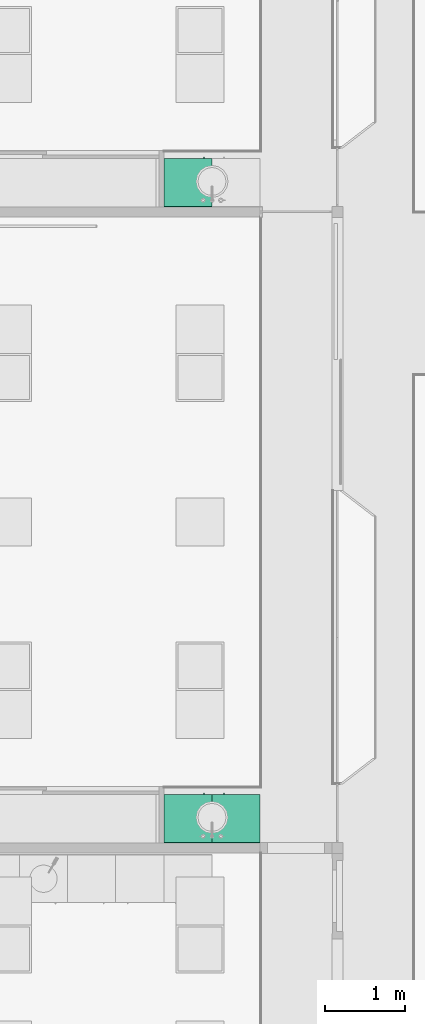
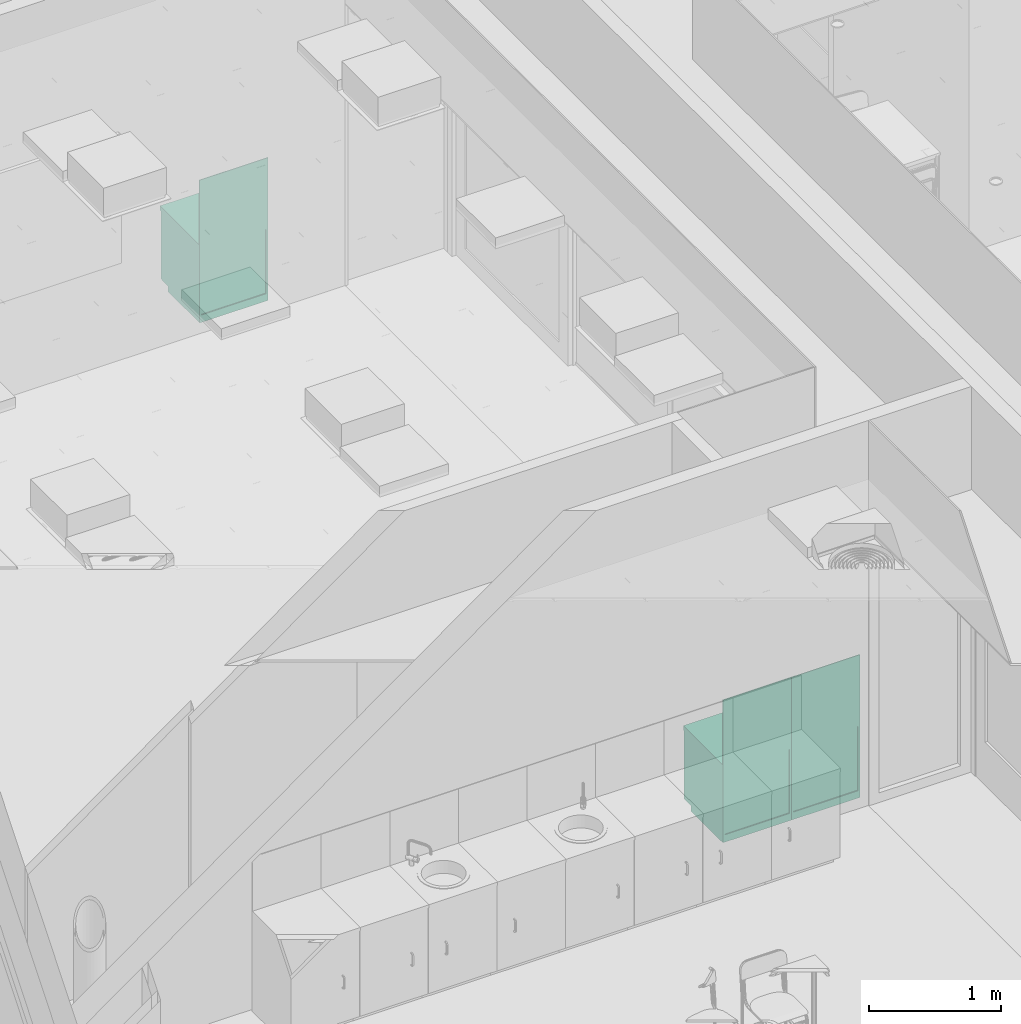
# One storey, part 304 of 347: 3 distribution elements.
"""IFC2X3 building model written with IfcOpenShell, lengths in millimetres."""

import ifcopenshell
import ifcopenshell.guid

model = None  # the IFC model being written
_history = None  # IfcOwnerHistory: only IFC2X3 demands one
_inside = {}  # id of a spatial element -> (the spatial element, [elements in it])
_under = {}  # id of a project, library or spatial element -> (it, [spatial elements below it])
_declared = {}  # id of a project -> (the project, [libraries it declares])
_typed = {}  # id of a type object -> (the type object, [elements of that type])
_made_of = {}  # id of a material, layer set ... -> (it, [elements and type objects made of it])


def new_model(schema):
    """Start an empty IFC model of exactly this schema.

    Asked for "IFC4X3", IfcOpenShell would pick the latest addendum, in which some entities
    have other attributes; the version numbers below select the first issue.
    IFC2X3 requires an IfcOwnerHistory on every rooted entity: one is made here for all.
    """
    global model, _history
    if schema == "IFC4X3":
        model = ifcopenshell.file(schema_version=(4, 3, 0, 0))
    else:
        model = ifcopenshell.file(schema=schema)
    _inside.clear()
    _under.clear()
    _declared.clear()
    _typed.clear()
    _made_of.clear()
    _history = None
    if model.schema == "IFC2X3":
        org = make("IfcOrganization", Name="unknown")
        user = make(
            "IfcPersonAndOrganization",
            ThePerson=make("IfcPerson", FamilyName="unknown"),
            TheOrganization=org,
        )
        app = make(
            "IfcApplication",
            ApplicationDeveloper=org,
            Version="unknown",
            ApplicationFullName="unknown",
            ApplicationIdentifier="unknown",
        )
        _history = make(
            "IfcOwnerHistory",
            OwningUser=user,
            OwningApplication=app,
            ChangeAction="ADDED",
            CreationDate=0,
        )
    return model


def make(cls, **values):
    """One entity of the class cls with the attributes given. An attribute that is None is left unset."""
    return model.create_entity(
        cls, **{name: value for name, value in values.items() if value is not None}
    )


def entity(cls, *values):
    """Any entity or typed value of the class cls, its attributes in the order of the schema. None: left unset."""
    e = model.create_entity(cls)
    for i, value in enumerate(values):
        if value is not None:
            e[i] = value
    return e


def rooted(cls, **values):
    """An entity with a GlobalId (a new one), such as an element, a storey or a relation."""
    return make(cls, GlobalId=ifcopenshell.guid.new(), OwnerHistory=_history, **values)


def si_unit(unit_type, name, prefix=None):
    """IfcSIUnit, for example si_unit("LENGTHUNIT", "METRE", prefix="MILLI")."""
    return make("IfcSIUnit", UnitType=unit_type, Prefix=prefix, Name=name)


def converted_unit(unit_type, name, factor, base, dimensions=None, offset=None):
    """IfcConversionBasedUnit, such as the inch: factor (a typed value) times the base unit."""
    return make(
        "IfcConversionBasedUnit"
        if offset is None
        else "IfcConversionBasedUnitWithOffset",
        ConversionOffset=offset,
        Dimensions=None
        if dimensions is None
        else entity("IfcDimensionalExponents", *dimensions),
        UnitType=unit_type,
        Name=name,
        ConversionFactor=make(
            "IfcMeasureWithUnit", ValueComponent=factor, UnitComponent=base
        ),
    )


def derived_unit(unit_type, elements):
    """IfcDerivedUnit: a product of units, each with its exponent."""
    return make(
        "IfcDerivedUnit",
        Elements=[
            make("IfcDerivedUnitElement", Unit=unit, Exponent=power)
            for unit, power in elements
        ],
        UnitType=unit_type,
    )


def money_unit(currency):
    """IfcMonetaryUnit."""
    return make("IfcMonetaryUnit", Currency=currency)


def assignment(units):
    """IfcUnitAssignment: the units of a project."""
    return None if units is None else make("IfcUnitAssignment", Units=units)


def point(xyz):
    """IfcCartesianPoint."""
    return None if xyz is None else make("IfcCartesianPoint", Coordinates=xyz)


def direction(xyz):
    """IfcDirection."""
    return None if xyz is None else make("IfcDirection", DirectionRatios=xyz)


def frame(location, z_axis=None, x_axis=None):
    """IfcAxis2Placement3D, a coordinate frame: its origin and axes. An axis left out is left unset."""
    return make(
        "IfcAxis2Placement3D",
        Location=point(location),
        Axis=direction(z_axis),
        RefDirection=direction(x_axis),
    )


def origin_with_axes():
    """The frame at (0, 0, 0) with the z axis (0, 0, 1) and the x axis (1, 0, 0) written out."""
    return frame((0.0, 0.0, 0.0), z_axis=(0.0, 0.0, 1.0), x_axis=(1.0, 0.0, 0.0))


def place(relative_to, where):
    """IfcLocalPlacement: puts the frame where relative to a parent placement (None: the world)."""
    return make(
        "IfcLocalPlacement", PlacementRelTo=relative_to, RelativePlacement=where
    )


def context(
    kind, dimensions, precision=None, world=None, true_north=None, identifier=None
):
    """IfcGeometricRepresentationContext, for example the 3D "Model" context."""
    return make(
        "IfcGeometricRepresentationContext",
        ContextIdentifier=identifier,
        ContextType=kind,
        CoordinateSpaceDimension=dimensions,
        Precision=precision,
        WorldCoordinateSystem=world,
        TrueNorth=true_north,
    )


def subcontext(parent, identifier, kind, view, scale=None):
    """IfcGeometricRepresentationSubContext, for example "Body" below "Model"."""
    return make(
        "IfcGeometricRepresentationSubContext",
        ContextIdentifier=identifier,
        ContextType=kind,
        ParentContext=parent,
        TargetScale=scale,
        TargetView=view,
    )


def project(units=None, contexts=None):
    """IfcProject with its units and contexts."""
    return rooted(
        "IfcProject",
        Name="project",
        RepresentationContexts=contexts,
        UnitsInContext=assignment(units),
    )


def spatial(cls, under=None, at=None, **own):
    """A site, building, storey or space (cls), placed at a placement, below another one or the project."""
    s = rooted(cls, ObjectPlacement=at, **own)
    if under is not None:
        _under.setdefault(under.id(), (under, []))[1].append(s)
    return s


def faces_of(points, faces, orient=None, outer=None):
    """IfcFace entities. A face is a list of loops; a loop is a list of indices into points, from 0.

    orient and outer hold one flag for each loop. By default every Orientation is true, the
    first loop of a face is its IfcFaceOuterBound and the others are IfcFaceBound.
    """
    made = []
    for i, loops in enumerate(faces):
        bounds = []
        for j, loop in enumerate(loops):
            is_outer = j == 0 if outer is None else outer[i][j]
            bounds.append(
                make(
                    "IfcFaceOuterBound" if is_outer else "IfcFaceBound",
                    Bound=make("IfcPolyLoop", Polygon=[points[k] for k in loop]),
                    Orientation=True if orient is None else orient[i][j],
                )
            )
        made.append(make("IfcFace", Bounds=bounds))
    return made


def faceted_brep(points, faces, orient=None, outer=None, voids=None):
    """IfcFacetedBrep: a solid bounded by flat faces; with voids (closed shells), ...WithVoids."""
    shared = [point(p) for p in points]
    hull = make("IfcClosedShell", CfsFaces=faces_of(shared, faces, orient, outer))
    if voids is None:
        return make("IfcFacetedBrep", Outer=hull)
    return make(
        "IfcFacetedBrepWithVoids",
        Outer=hull,
        Voids=[
            make(cls, CfsFaces=faces_of(shared, fs, o, b)) for cls, fs, o, b in voids
        ],
    )


def shape(context_of_items, identifier, shape_type, items):
    """IfcShapeRepresentation: the items that make up one representation, for example the "Body"."""
    return make(
        "IfcShapeRepresentation",
        ContextOfItems=context_of_items,
        RepresentationIdentifier=identifier,
        RepresentationType=shape_type,
        Items=items,
    )


def made_of(thing, what):
    """Note that an element or type object is made of a material, layer set ...; save() writes the relation."""
    if what is not None:
        _made_of.setdefault(what.id(), (what, []))[1].append(thing)
    return thing


def type_object(cls, material=None, **own):
    """A type object (cls), such as IfcWallType, which elements share."""
    return made_of(rooted(cls, **own), material)


def element(
    cls,
    number,
    at=None,
    inside=None,
    cuts=None,
    type_object=None,
    material=None,
    context=None,
    identifier="Body",
    shape_type=None,
    held_by="IfcProductDefinitionShape",
    body=None,
    shapes=None,
    **own,
):
    """One element of the class cls, such as IfcWall. Its Tag is "e" and its number.

    at: its placement. inside: the storey or other place that contains it. cuts: it is an
    opening in that element (IfcRelVoidsElement). A single representation is given by context,
    identifier, shape_type and body (its items); several are given by shapes. held_by: the class
    of the entity that holds the representations. save() writes the other relations.
    """
    e = rooted(cls, Tag="e%d" % number, ObjectPlacement=at, **own)
    if body is not None:
        shapes = [shape(context, identifier, shape_type, body)]
    if shapes is not None:
        e.Representation = make(held_by, Representations=shapes)
    if inside is not None:
        _inside.setdefault(inside.id(), (inside, []))[1].append(e)
    if cuts is not None:
        rooted(
            "IfcRelVoidsElement", RelatingBuildingElement=cuts, RelatedOpeningElement=e
        )
    if type_object is not None:
        _typed.setdefault(type_object.id(), (type_object, []))[1].append(e)
    return made_of(e, material)


def aggregate(whole, parts):
    """IfcRelAggregates: a whole, such as a stair, and the parts it consists of."""
    return rooted("IfcRelAggregates", RelatingObject=whole, RelatedObjects=parts)


def save(model, path):
    """Write the relations noted so far, then the file.

    IfcRelAggregates (storeys below a building ...), IfcRelContainedInSpatialStructure (elements
    in a storey), IfcRelDefinesByType, IfcRelAssociatesMaterial and IfcRelDeclares: one each for
    every whole, place, type object, material and project.
    """
    for whole, parts in _under.values():
        aggregate(whole, parts)
    for where, things in _inside.values():
        rooted(
            "IfcRelContainedInSpatialStructure",
            RelatedElements=things,
            RelatingStructure=where,
        )
    for kind, things in _typed.values():
        rooted("IfcRelDefinesByType", RelatedObjects=things, RelatingType=kind)
    for what, things in _made_of.values():
        rooted("IfcRelAssociatesMaterial", RelatedObjects=things, RelatingMaterial=what)
    for by, libraries in _declared.values():
        rooted("IfcRelDeclares", RelatingContext=by, RelatedDefinitions=libraries)
    model.write(path)


model = new_model("IFC2X3")

# Units and contexts
model_context = context("Model", 3, precision=0.01, world=origin_with_axes(), true_north=direction((0.0, 1.0)))
plan_context = context("Plan", 3, precision=0.01, world=origin_with_axes(), true_north=direction((0.0, 1.0)))
body_context = subcontext(model_context, "Body", "Model", "MODEL_VIEW")
ifc_project = project(units=[si_unit("LENGTHUNIT", "METRE", prefix="MILLI"), si_unit("AREAUNIT", "SQUARE_METRE"), si_unit("VOLUMEUNIT", "CUBIC_METRE"), converted_unit("PLANEANGLEUNIT", "DEGREE", entity("IfcPlaneAngleMeasure", 0.0174532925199), si_unit("PLANEANGLEUNIT", "RADIAN"), dimensions=[0, 0, 0, 0, 0, 0, 0]), money_unit("EUR"), converted_unit("TIMEUNIT", "Year", entity("IfcTimeMeasure", 31556926.0), si_unit("TIMEUNIT", "SECOND"), dimensions=[0, 0, 1, 0, 0, 0, 0]), si_unit("MASSUNIT", "GRAM", prefix="KILO"), si_unit("THERMODYNAMICTEMPERATUREUNIT", "DEGREE_CELSIUS"), si_unit("LUMINOUSINTENSITYUNIT", "LUMEN"), si_unit("ENERGYUNIT", "JOULE", prefix="MEGA"), derived_unit("THERMALCONDUCTANCEUNIT", [(si_unit("POWERUNIT", "WATT"), 1), (si_unit("LENGTHUNIT", "METRE"), -1), (si_unit("THERMODYNAMICTEMPERATUREUNIT", "KELVIN"), -1)]), derived_unit("SPECIFICHEATCAPACITYUNIT", [(si_unit("ENERGYUNIT", "JOULE"), 1), (si_unit("MASSUNIT", "GRAM", prefix="KILO"), -1), (si_unit("THERMODYNAMICTEMPERATUREUNIT", "KELVIN"), -1)]), derived_unit("MASSDENSITYUNIT", [(si_unit("MASSUNIT", "GRAM", prefix="KILO"), 1), (si_unit("VOLUMEUNIT", "CUBIC_METRE"), -1)])], contexts=[model_context, plan_context])

# Site, building, storey
site_placement = place(None, origin_with_axes())
site = spatial("IfcSite", under=ifc_project, at=site_placement, Name="Site", CompositionType="ELEMENT")
building_placement = place(site_placement, origin_with_axes())
building = spatial("IfcBuilding", under=site, at=building_placement, Name="Naam gebouw", CompositionType="ELEMENT")
storey_placement = place(building_placement, origin_with_axes())
storey = spatial("IfcBuildingStorey", under=building, at=storey_placement, Name="begane grond", CompositionType="ELEMENT", Elevation=0.0)

# Distribution elements
distribution_element_type = type_object("IfcDistributionElementType", Name="Onderkast recht 25")
distribution_element_1_placement = place(storey_placement, frame((30575.0, 20112.5, 0.0), z_axis=(0.0, 0.0, 1.0), x_axis=(-1.0, 0.0, 0.0)))
element("IfcDistributionElement", 1, at=distribution_element_1_placement, inside=storey, type_object=distribution_element_type, Name="65 Beveiliging_82 pantryblok", context=body_context, shape_type="Brep", body=[
    faceted_brep([(-127.279220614, -444.012913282, 720.0), (-166.298315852, -385.616710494, 720.0), (-180.0, -316.733692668, 720.0), (-166.298315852, -247.850674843, 720.0), (-127.279220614, -189.454472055, 720.0), (-68.8830178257, -150.435376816, 720.0), (0.0, -136.733692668, 720.0), (0.0, 0.0, 720.0), (-600.0, 0.0, 720.0), (-600.0, -600.0, 720.0), (0.0, -600.0, 720.0), (0.0, -496.733692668, 720.0), (-68.8830178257, -483.03200852, 720.0), (-127.279220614, -444.012913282, 680.0), (-166.298315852, -385.616710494, 680.0), (-180.0, -316.733692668, 680.0), (-166.298315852, -247.850674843, 680.0), (-127.279220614, -189.454472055, 680.0), (-68.8830178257, -150.435376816, 680.0), (0.0, -136.733692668, 680.0), (0.0, 0.0, 680.0), (-600.0, 0.0, 680.0), (-600.0, -600.0, 680.0), (0.0, -600.0, 680.0), (0.0, -496.733692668, 680.0), (-68.8830178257, -483.03200852, 680.0)], [[[0, 1, 2, 3, 4, 5, 6, 7, 8, 9, 10, 11, 12]], [[1, 0, 13, 14]], [[2, 1, 14, 15]], [[3, 2, 15, 16]], [[4, 3, 16, 17]], [[5, 4, 17, 18]], [[6, 5, 18, 19]], [[6, 19, 20, 7]], [[20, 21, 8, 7]], [[21, 22, 9, 8]], [[22, 23, 10, 9]], [[24, 11, 10, 23]], [[12, 11, 24, 25]], [[0, 12, 25, 13]], [[25, 24, 23, 22, 21, 20, 19, 18, 17, 16, 15, 14, 13]]]),
    faceted_brep([(-18.0, -512.0, 662.0), (-18.0, -572.0, 662.0), (-582.0, -572.0, 662.0), (-582.0, -512.0, 662.0), (-18.0, -572.0, 680.0), (-18.0, -512.0, 680.0), (-582.0, -572.0, 680.0), (-582.0, -512.0, 680.0)], [[[0, 1, 2, 3]], [[4, 1, 0, 5]], [[1, 4, 6, 2]], [[3, 2, 6, 7]], [[5, 0, 3, 7]], [[4, 5, 7, 6]]]),
    faceted_brep([(-18.0, -9.0, 68.0), (-582.0, -9.0, 68.0), (-582.0, -9.0, 662.0), (-18.0, -9.0, 662.0), (-582.0, -18.0, 68.0), (-18.0, -18.0, 68.0), (-582.0, -18.0, 662.0), (-18.0, -18.0, 662.0)], [[[0, 1, 2, 3]], [[4, 1, 0, 5]], [[1, 4, 6, 2]], [[3, 2, 6, 7]], [[5, 0, 3, 7]], [[4, 5, 7, 6]]]),
    faceted_brep([(-582.0, -60.0, 662.0), (-582.0, 0.0, 662.0), (-18.0, 0.0, 662.0), (-18.0, -60.0, 662.0), (-582.0, 0.0, 680.0), (-582.0, -60.0, 680.0), (-18.0, 0.0, 680.0), (-18.0, -60.0, 680.0)], [[[0, 1, 2, 3]], [[4, 1, 0, 5]], [[1, 4, 6, 2]], [[3, 2, 6, 7]], [[5, 0, 3, 7]], [[4, 5, 7, 6]]]),
    faceted_brep([(-14.8492424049, -201.884450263, 520.0), (-18.0, -205.990597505, 520.0), (-18.0, -205.990597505, 500.0), (-14.8492424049, -201.884450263, 500.0), (-18.0, -140.314115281, 520.0), (-10.5, -198.547159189, 520.0), (-5.43519994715, -196.449250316, 520.0), (0.0, -195.733692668, 520.0), (0.0, -136.733692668, 520.0), (-18.0, -493.153270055, 520.0), (-18.0, -227.476787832, 520.0), (-18.0, -227.476787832, 500.0), (-18.0, -140.314115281, 680.0), (-18.0, 0.0, 680.0), (-18.0, 0.0, 50.0), (-18.0, -572.0, 50.0), (-18.0, -572.0, 680.0), (-18.0, -493.153270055, 680.0), (-14.8492424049, -231.582935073, 500.0), (-10.5, -234.920226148, 500.0), (-5.43519994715, -237.01813502, 500.0), (0.0, -237.733692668, 500.0), (0.0, -195.733692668, 500.0), (-5.43519994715, -196.449250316, 500.0), (-10.5, -198.547159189, 500.0), (0.0, -496.733692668, 520.0), (0.0, -496.733692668, 680.0), (0.0, -572.0, 680.0), (0.0, -572.0, 50.0), (0.0, 0.0, 50.0), (0.0, 0.0, 680.0), (0.0, -136.733692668, 680.0), (0.0, -237.733692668, 520.0), (-5.43519994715, -237.01813502, 520.0), (-10.5, -234.920226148, 520.0), (-14.8492424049, -231.582935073, 520.0)], [[[0, 1, 2, 3]], [[4, 1, 0, 5, 6, 7, 8]], [[9, 10, 11, 2, 1, 4, 12, 13, 14, 15, 16, 17]], [[2, 11, 18, 19, 20, 21, 22, 23, 24, 3]], [[5, 0, 3, 24]], [[6, 5, 24, 23]], [[7, 6, 23, 22]], [[25, 26, 27, 28, 29, 30, 31, 8, 7, 22, 21, 32]], [[31, 12, 4, 8]], [[10, 9, 25, 32, 33, 34, 35]], [[10, 35, 18, 11]], [[12, 31, 30, 13]], [[29, 14, 13, 30]], [[14, 29, 28, 15]], [[15, 28, 27, 16]], [[26, 17, 16, 27]], [[9, 17, 26, 25]], [[35, 34, 19, 18]], [[34, 33, 20, 19]], [[33, 32, 21, 20]]]),
    faceted_brep([(-600.0, 0.0, 50.0), (-600.0, -572.0, 50.0), (-600.0, -572.0, 680.0), (-600.0, 0.0, 680.0), (-582.0, -572.0, 50.0), (-582.0, 0.0, 50.0), (-582.0, -572.0, 680.0), (-582.0, 0.0, 680.0)], [[[0, 1, 2, 3]], [[4, 1, 0, 5]], [[1, 4, 6, 2]], [[3, 2, 6, 7]], [[5, 0, 3, 7]], [[4, 5, 7, 6]]]),
    faceted_brep([(-600.0, 0.0, 720.0), (0.0, 0.0, 720.0), (0.0, -6.0, 720.0), (-600.0, -6.0, 720.0), (-600.0, 0.0, 1320.0), (0.0, 0.0, 1320.0), (0.0, -6.0, 1320.0), (-600.0, -6.0, 1320.0)], [[[0, 1, 2, 3]], [[4, 5, 1, 0]], [[1, 5, 6, 2]], [[3, 2, 6, 7]], [[0, 3, 7, 4]], [[7, 6, 5, 4]]]),
    faceted_brep([(-146.0, -590.0, 291.0), (-156.0, -590.0, 291.0), (-156.0, -590.0, 301.0), (-146.0, -590.0, 301.0), (-146.0, -600.0, 291.0), (-156.0, -600.0, 291.0), (-156.0, -603.472963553, 291.30384494), (-156.0, -606.840402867, 292.206147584), (-156.0, -610.0, 293.679491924), (-156.0, -612.855752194, 295.679111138), (-156.0, -615.320888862, 298.144247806), (-156.0, -617.320508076, 301.0), (-156.0, -618.793852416, 304.159597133), (-156.0, -619.69615506, 307.527036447), (-156.0, -620.0, 311.0), (-156.0, -620.0, 421.0), (-156.0, -619.69615506, 424.472963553), (-156.0, -618.793852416, 427.840402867), (-156.0, -617.320508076, 431.0), (-156.0, -615.320888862, 433.855752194), (-156.0, -612.855752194, 436.320888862), (-156.0, -610.0, 438.320508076), (-156.0, -606.840402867, 439.793852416), (-156.0, -603.472963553, 440.69615506), (-156.0, -600.0, 441.0), (-156.0, -590.0, 441.0), (-156.0, -590.0, 431.0), (-156.0, -600.0, 431.0), (-156.0, -601.736481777, 430.84807753), (-156.0, -603.420201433, 430.396926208), (-156.0, -605.0, 429.660254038), (-156.0, -606.427876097, 428.660444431), (-156.0, -607.660444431, 427.427876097), (-156.0, -608.660254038, 426.0), (-156.0, -609.396926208, 424.420201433), (-156.0, -609.84807753, 422.736481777), (-156.0, -610.0, 421.0), (-156.0, -610.0, 311.0), (-156.0, -609.84807753, 309.263518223), (-156.0, -609.396926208, 307.579798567), (-156.0, -608.660254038, 306.0), (-156.0, -607.660444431, 304.572123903), (-156.0, -606.427876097, 303.339555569), (-156.0, -605.0, 302.339745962), (-156.0, -603.420201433, 301.603073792), (-156.0, -601.736481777, 301.15192247), (-156.0, -600.0, 301.0), (-146.0, -600.0, 301.0), (-146.0, -601.736481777, 301.15192247), (-146.0, -603.420201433, 301.603073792), (-146.0, -605.0, 302.339745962), (-146.0, -606.427876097, 303.339555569), (-146.0, -607.660444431, 304.572123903), (-146.0, -608.660254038, 306.0), (-146.0, -609.396926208, 307.579798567), (-146.0, -609.84807753, 309.263518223), (-146.0, -610.0, 311.0), (-146.0, -610.0, 421.0), (-146.0, -609.84807753, 422.736481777), (-146.0, -609.396926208, 424.420201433), (-146.0, -608.660254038, 426.0), (-146.0, -607.660444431, 427.427876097), (-146.0, -606.427876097, 428.660444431), (-146.0, -605.0, 429.660254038), (-146.0, -603.420201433, 430.396926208), (-146.0, -601.736481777, 430.84807753), (-146.0, -600.0, 431.0), (-146.0, -590.0, 431.0), (-146.0, -590.0, 441.0), (-146.0, -600.0, 441.0), (-146.0, -603.472963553, 440.69615506), (-146.0, -606.840402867, 439.793852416), (-146.0, -610.0, 438.320508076), (-146.0, -612.855752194, 436.320888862), (-146.0, -615.320888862, 433.855752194), (-146.0, -617.320508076, 431.0), (-146.0, -618.793852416, 427.840402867), (-146.0, -619.69615506, 424.472963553), (-146.0, -620.0, 421.0), (-146.0, -620.0, 311.0), (-146.0, -619.69615506, 307.527036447), (-146.0, -618.793852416, 304.159597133), (-146.0, -617.320508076, 301.0), (-146.0, -615.320888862, 298.144247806), (-146.0, -612.855752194, 295.679111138), (-146.0, -610.0, 293.679491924), (-146.0, -606.840402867, 292.206147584), (-146.0, -603.472963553, 291.30384494)], [[[0, 1, 2, 3]], [[4, 5, 1, 0]], [[1, 5, 6, 7, 8, 9, 10, 11, 12, 13, 14, 15, 16, 17, 18, 19, 20, 21, 22, 23, 24, 25, 26, 27, 28, 29, 30, 31, 32, 33, 34, 35, 36, 37, 38, 39, 40, 41, 42, 43, 44, 45, 46, 2]], [[3, 2, 46, 47]], [[0, 3, 47, 48, 49, 50, 51, 52, 53, 54, 55, 56, 57, 58, 59, 60, 61, 62, 63, 64, 65, 66, 67, 68, 69, 70, 71, 72, 73, 74, 75, 76, 77, 78, 79, 80, 81, 82, 83, 84, 85, 86, 87, 4]], [[87, 6, 5, 4]], [[86, 7, 6, 87]], [[85, 8, 7, 86]], [[84, 9, 8, 85]], [[83, 10, 9, 84]], [[82, 11, 10, 83]], [[81, 12, 11, 82]], [[80, 13, 12, 81]], [[79, 14, 13, 80]], [[78, 15, 14, 79]], [[77, 16, 15, 78]], [[76, 17, 16, 77]], [[75, 18, 17, 76]], [[74, 19, 18, 75]], [[73, 20, 19, 74]], [[72, 21, 20, 73]], [[71, 22, 21, 72]], [[70, 23, 22, 71]], [[69, 24, 23, 70]], [[68, 25, 24, 69]], [[67, 26, 25, 68]], [[66, 27, 26, 67]], [[65, 28, 27, 66]], [[64, 29, 28, 65]], [[63, 30, 29, 64]], [[62, 31, 30, 63]], [[61, 32, 31, 62]], [[60, 33, 32, 61]], [[59, 34, 33, 60]], [[58, 35, 34, 59]], [[57, 36, 35, 58]], [[56, 37, 36, 57]], [[55, 38, 37, 56]], [[54, 39, 38, 55]], [[53, 40, 39, 54]], [[52, 41, 40, 53]], [[51, 42, 41, 52]], [[50, 43, 42, 51]], [[49, 44, 43, 50]], [[48, 45, 44, 49]], [[47, 46, 45, 48]]]),
    faceted_brep([(-1.0, -572.0, 51.0), (-1.0, -590.0, 51.0), (-599.0, -590.0, 51.0), (-599.0, -572.0, 51.0), (-1.0, -572.0, 679.0), (-1.0, -590.0, 679.0), (-599.0, -590.0, 679.0), (-599.0, -572.0, 679.0)], [[[0, 1, 2, 3]], [[4, 5, 1, 0]], [[1, 5, 6, 2]], [[3, 2, 6, 7]], [[0, 3, 7, 4]], [[7, 6, 5, 4]]]),
    faceted_brep([(-18.0, -572.0, 50.0), (-18.0, -572.0, 68.0), (-582.0, -572.0, 68.0), (-582.0, -572.0, 50.0), (-18.0, 0.0, 50.0), (-18.0, 0.0, 68.0), (-582.0, 0.0, 68.0), (-582.0, 0.0, 50.0)], [[[0, 1, 2, 3]], [[4, 5, 1, 0]], [[1, 5, 6, 2]], [[3, 2, 6, 7]], [[0, 3, 7, 4]], [[7, 6, 5, 4]]]),
    faceted_brep([(0.0, -482.0, 0.0), (0.0, -482.0, 50.0), (-600.0, -482.0, 50.0), (-600.0, -482.0, 0.0), (0.0, 0.0, 0.0), (0.0, 0.0, 50.0), (-600.0, 0.0, 50.0), (-600.0, 0.0, 0.0)], [[[0, 1, 2, 3]], [[4, 5, 1, 0]], [[1, 5, 6, 2]], [[3, 2, 6, 7]], [[0, 3, 7, 4]], [[7, 6, 5, 4]]]),
])
distribution_element_2_placement = place(storey_placement, frame((29975.0, 28037.5, 0.0), z_axis=(0.0, 0.0, 1.0), x_axis=(-1.0, 0.0, 0.0)))
element("IfcDistributionElement", 2, at=distribution_element_2_placement, inside=storey, type_object=distribution_element_type, Name="65 Beveiliging_82 pantryblok", context=body_context, shape_type="Brep", body=[
    faceted_brep([(-472.720779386, -444.012913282, 720.0), (-531.116982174, -483.03200852, 720.0), (-600.0, -496.733692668, 720.0), (-600.0, -600.0, 720.0), (0.0, -600.0, 720.0), (0.0, 0.0, 720.0), (-600.0, 0.0, 720.0), (-600.0, -136.733692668, 720.0), (-531.116982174, -150.435376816, 720.0), (-472.720779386, -189.454472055, 720.0), (-433.701684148, -247.850674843, 720.0), (-420.0, -316.733692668, 720.0), (-433.701684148, -385.616710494, 720.0), (-472.720779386, -444.012913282, 680.0), (-531.116982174, -483.03200852, 680.0), (-600.0, -496.733692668, 680.0), (-600.0, -600.0, 680.0), (0.0, -600.0, 680.0), (0.0, 0.0, 680.0), (-600.0, 0.0, 680.0), (-600.0, -136.733692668, 680.0), (-531.116982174, -150.435376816, 680.0), (-472.720779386, -189.454472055, 680.0), (-433.701684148, -247.850674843, 680.0), (-420.0, -316.733692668, 680.0), (-433.701684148, -385.616710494, 680.0)], [[[0, 1, 2, 3, 4, 5, 6, 7, 8, 9, 10, 11, 12]], [[1, 0, 13, 14]], [[2, 1, 14, 15]], [[2, 15, 16, 3]], [[16, 17, 4, 3]], [[17, 18, 5, 4]], [[18, 19, 6, 5]], [[20, 7, 6, 19]], [[8, 7, 20, 21]], [[9, 8, 21, 22]], [[10, 9, 22, 23]], [[11, 10, 23, 24]], [[12, 11, 24, 25]], [[0, 12, 25, 13]], [[21, 20, 19, 18, 17, 16, 15, 14, 13, 25, 24, 23, 22]]]),
    faceted_brep([(-18.0, -512.0, 662.0), (-18.0, -572.0, 662.0), (-582.0, -572.0, 662.0), (-582.0, -512.0, 662.0), (-18.0, -572.0, 680.0), (-18.0, -512.0, 680.0), (-582.0, -572.0, 680.0), (-582.0, -512.0, 680.0)], [[[0, 1, 2, 3]], [[4, 1, 0, 5]], [[1, 4, 6, 2]], [[3, 2, 6, 7]], [[5, 0, 3, 7]], [[4, 5, 7, 6]]]),
    faceted_brep([(-18.0, -9.0, 68.0), (-582.0, -9.0, 68.0), (-582.0, -9.0, 662.0), (-18.0, -9.0, 662.0), (-582.0, -18.0, 68.0), (-18.0, -18.0, 68.0), (-582.0, -18.0, 662.0), (-18.0, -18.0, 662.0)], [[[0, 1, 2, 3]], [[4, 1, 0, 5]], [[1, 4, 6, 2]], [[3, 2, 6, 7]], [[5, 0, 3, 7]], [[4, 5, 7, 6]]]),
    faceted_brep([(-582.0, -60.0, 662.0), (-582.0, 0.0, 662.0), (-18.0, 0.0, 662.0), (-18.0, -60.0, 662.0), (-582.0, 0.0, 680.0), (-582.0, -60.0, 680.0), (-18.0, 0.0, 680.0), (-18.0, -60.0, 680.0)], [[[0, 1, 2, 3]], [[4, 1, 0, 5]], [[1, 4, 6, 2]], [[3, 2, 6, 7]], [[5, 0, 3, 7]], [[4, 5, 7, 6]]]),
    faceted_brep([(0.0, -572.0, 50.0), (0.0, 0.0, 50.0), (0.0, 0.0, 680.0), (0.0, -572.0, 680.0), (-18.0, 0.0, 50.0), (-18.0, -572.0, 50.0), (-18.0, 0.0, 680.0), (-18.0, -572.0, 680.0)], [[[0, 1, 2, 3]], [[4, 1, 0, 5]], [[1, 4, 6, 2]], [[3, 2, 6, 7]], [[5, 0, 3, 7]], [[4, 5, 7, 6]]]),
    faceted_brep([(-594.564800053, -196.449250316, 520.0), (-600.0, -195.733692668, 520.0), (-600.0, -195.733692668, 500.0), (-594.564800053, -196.449250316, 500.0), (-600.0, -136.733692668, 520.0), (-589.5, -198.547159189, 520.0), (-585.150757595, -201.884450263, 520.0), (-582.0, -205.990597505, 520.0), (-582.0, -140.314115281, 520.0), (-600.0, -496.733692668, 520.0), (-600.0, -237.733692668, 520.0), (-600.0, -237.733692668, 500.0), (-600.0, -136.733692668, 680.0), (-600.0, 0.0, 680.0), (-600.0, 0.0, 50.0), (-600.0, -572.0, 50.0), (-600.0, -572.0, 680.0), (-600.0, -496.733692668, 680.0), (-594.564800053, -237.01813502, 500.0), (-589.5, -234.920226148, 500.0), (-585.150757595, -231.582935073, 500.0), (-582.0, -227.476787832, 500.0), (-582.0, -205.990597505, 500.0), (-585.150757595, -201.884450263, 500.0), (-589.5, -198.547159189, 500.0), (-582.0, -493.153270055, 520.0), (-582.0, -493.153270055, 680.0), (-582.0, -572.0, 680.0), (-582.0, -572.0, 50.0), (-582.0, 0.0, 50.0), (-582.0, 0.0, 680.0), (-582.0, -140.314115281, 680.0), (-582.0, -227.476787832, 520.0), (-585.150757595, -231.582935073, 520.0), (-589.5, -234.920226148, 520.0), (-594.564800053, -237.01813502, 520.0)], [[[0, 1, 2, 3]], [[4, 1, 0, 5, 6, 7, 8]], [[9, 10, 11, 2, 1, 4, 12, 13, 14, 15, 16, 17]], [[2, 11, 18, 19, 20, 21, 22, 23, 24, 3]], [[5, 0, 3, 24]], [[6, 5, 24, 23]], [[7, 6, 23, 22]], [[25, 26, 27, 28, 29, 30, 31, 8, 7, 22, 21, 32]], [[31, 12, 4, 8]], [[10, 9, 25, 32, 33, 34, 35]], [[10, 35, 18, 11]], [[12, 31, 30, 13]], [[29, 14, 13, 30]], [[28, 15, 14, 29]], [[15, 28, 27, 16]], [[26, 17, 16, 27]], [[17, 26, 25, 9]], [[35, 34, 19, 18]], [[34, 33, 20, 19]], [[33, 32, 21, 20]]]),
    faceted_brep([(-600.0, 0.0, 720.0), (0.0, 0.0, 720.0), (0.0, -6.0, 720.0), (-600.0, -6.0, 720.0), (-600.0, 0.0, 1320.0), (0.0, 0.0, 1320.0), (0.0, -6.0, 1320.0), (-600.0, -6.0, 1320.0)], [[[0, 1, 2, 3]], [[4, 5, 1, 0]], [[1, 5, 6, 2]], [[3, 2, 6, 7]], [[0, 3, 7, 4]], [[7, 6, 5, 4]]]),
    faceted_brep([(-496.0, -590.0, 291.0), (-506.0, -590.0, 291.0), (-506.0, -590.0, 301.0), (-496.0, -590.0, 301.0), (-496.0, -600.0, 291.0), (-506.0, -600.0, 291.0), (-506.0, -603.472963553, 291.30384494), (-506.0, -606.840402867, 292.206147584), (-506.0, -610.0, 293.679491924), (-506.0, -612.855752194, 295.679111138), (-506.0, -615.320888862, 298.144247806), (-506.0, -617.320508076, 301.0), (-506.0, -618.793852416, 304.159597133), (-506.0, -619.69615506, 307.527036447), (-506.0, -620.0, 311.0), (-506.0, -620.0, 421.0), (-506.0, -619.69615506, 424.472963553), (-506.0, -618.793852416, 427.840402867), (-506.0, -617.320508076, 431.0), (-506.0, -615.320888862, 433.855752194), (-506.0, -612.855752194, 436.320888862), (-506.0, -610.0, 438.320508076), (-506.0, -606.840402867, 439.793852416), (-506.0, -603.472963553, 440.69615506), (-506.0, -600.0, 441.0), (-506.0, -590.0, 441.0), (-506.0, -590.0, 431.0), (-506.0, -600.0, 431.0), (-506.0, -601.736481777, 430.84807753), (-506.0, -603.420201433, 430.396926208), (-506.0, -605.0, 429.660254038), (-506.0, -606.427876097, 428.660444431), (-506.0, -607.660444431, 427.427876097), (-506.0, -608.660254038, 426.0), (-506.0, -609.396926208, 424.420201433), (-506.0, -609.84807753, 422.736481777), (-506.0, -610.0, 421.0), (-506.0, -610.0, 311.0), (-506.0, -609.84807753, 309.263518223), (-506.0, -609.396926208, 307.579798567), (-506.0, -608.660254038, 306.0), (-506.0, -607.660444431, 304.572123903), (-506.0, -606.427876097, 303.339555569), (-506.0, -605.0, 302.339745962), (-506.0, -603.420201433, 301.603073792), (-506.0, -601.736481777, 301.15192247), (-506.0, -600.0, 301.0), (-496.0, -600.0, 301.0), (-496.0, -601.736481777, 301.15192247), (-496.0, -603.420201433, 301.603073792), (-496.0, -605.0, 302.339745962), (-496.0, -606.427876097, 303.339555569), (-496.0, -607.660444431, 304.572123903), (-496.0, -608.660254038, 306.0), (-496.0, -609.396926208, 307.579798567), (-496.0, -609.84807753, 309.263518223), (-496.0, -610.0, 311.0), (-496.0, -610.0, 421.0), (-496.0, -609.84807753, 422.736481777), (-496.0, -609.396926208, 424.420201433), (-496.0, -608.660254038, 426.0), (-496.0, -607.660444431, 427.427876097), (-496.0, -606.427876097, 428.660444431), (-496.0, -605.0, 429.660254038), (-496.0, -603.420201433, 430.396926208), (-496.0, -601.736481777, 430.84807753), (-496.0, -600.0, 431.0), (-496.0, -590.0, 431.0), (-496.0, -590.0, 441.0), (-496.0, -600.0, 441.0), (-496.0, -603.472963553, 440.69615506), (-496.0, -606.840402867, 439.793852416), (-496.0, -610.0, 438.320508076), (-496.0, -612.855752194, 436.320888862), (-496.0, -615.320888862, 433.855752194), (-496.0, -617.320508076, 431.0), (-496.0, -618.793852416, 427.840402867), (-496.0, -619.69615506, 424.472963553), (-496.0, -620.0, 421.0), (-496.0, -620.0, 311.0), (-496.0, -619.69615506, 307.527036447), (-496.0, -618.793852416, 304.159597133), (-496.0, -617.320508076, 301.0), (-496.0, -615.320888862, 298.144247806), (-496.0, -612.855752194, 295.679111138), (-496.0, -610.0, 293.679491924), (-496.0, -606.840402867, 292.206147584), (-496.0, -603.472963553, 291.30384494)], [[[0, 1, 2, 3]], [[4, 5, 1, 0]], [[1, 5, 6, 7, 8, 9, 10, 11, 12, 13, 14, 15, 16, 17, 18, 19, 20, 21, 22, 23, 24, 25, 26, 27, 28, 29, 30, 31, 32, 33, 34, 35, 36, 37, 38, 39, 40, 41, 42, 43, 44, 45, 46, 2]], [[3, 2, 46, 47]], [[0, 3, 47, 48, 49, 50, 51, 52, 53, 54, 55, 56, 57, 58, 59, 60, 61, 62, 63, 64, 65, 66, 67, 68, 69, 70, 71, 72, 73, 74, 75, 76, 77, 78, 79, 80, 81, 82, 83, 84, 85, 86, 87, 4]], [[87, 6, 5, 4]], [[86, 7, 6, 87]], [[85, 8, 7, 86]], [[84, 9, 8, 85]], [[83, 10, 9, 84]], [[82, 11, 10, 83]], [[81, 12, 11, 82]], [[80, 13, 12, 81]], [[79, 14, 13, 80]], [[78, 15, 14, 79]], [[77, 16, 15, 78]], [[76, 17, 16, 77]], [[75, 18, 17, 76]], [[74, 19, 18, 75]], [[73, 20, 19, 74]], [[72, 21, 20, 73]], [[71, 22, 21, 72]], [[70, 23, 22, 71]], [[69, 24, 23, 70]], [[68, 25, 24, 69]], [[67, 26, 25, 68]], [[66, 27, 26, 67]], [[65, 28, 27, 66]], [[64, 29, 28, 65]], [[63, 30, 29, 64]], [[62, 31, 30, 63]], [[61, 32, 31, 62]], [[60, 33, 32, 61]], [[59, 34, 33, 60]], [[58, 35, 34, 59]], [[57, 36, 35, 58]], [[56, 37, 36, 57]], [[55, 38, 37, 56]], [[54, 39, 38, 55]], [[53, 40, 39, 54]], [[52, 41, 40, 53]], [[51, 42, 41, 52]], [[50, 43, 42, 51]], [[49, 44, 43, 50]], [[48, 45, 44, 49]], [[47, 46, 45, 48]]]),
    faceted_brep([(-1.0, -572.0, 51.0), (-1.0, -590.0, 51.0), (-599.0, -590.0, 51.0), (-599.0, -572.0, 51.0), (-1.0, -572.0, 679.0), (-1.0, -590.0, 679.0), (-599.0, -590.0, 679.0), (-599.0, -572.0, 679.0)], [[[0, 1, 2, 3]], [[4, 5, 1, 0]], [[1, 5, 6, 2]], [[3, 2, 6, 7]], [[0, 3, 7, 4]], [[7, 6, 5, 4]]]),
    faceted_brep([(-18.0, -572.0, 50.0), (-18.0, -572.0, 68.0), (-582.0, -572.0, 68.0), (-582.0, -572.0, 50.0), (-18.0, 0.0, 50.0), (-18.0, 0.0, 68.0), (-582.0, 0.0, 68.0), (-582.0, 0.0, 50.0)], [[[0, 1, 2, 3]], [[4, 5, 1, 0]], [[1, 5, 6, 2]], [[3, 2, 6, 7]], [[0, 3, 7, 4]], [[7, 6, 5, 4]]]),
    faceted_brep([(0.0, -482.0, 0.0), (0.0, -482.0, 50.0), (-600.0, -482.0, 50.0), (-600.0, -482.0, 0.0), (0.0, 0.0, 0.0), (0.0, 0.0, 50.0), (-600.0, 0.0, 50.0), (-600.0, 0.0, 0.0)], [[[0, 1, 2, 3]], [[4, 5, 1, 0]], [[1, 5, 6, 2]], [[3, 2, 6, 7]], [[0, 3, 7, 4]], [[7, 6, 5, 4]]]),
])
distribution_element_3_placement = place(storey_placement, frame((29975.0, 20112.5, 0.0), z_axis=(0.0, 0.0, 1.0), x_axis=(-1.0, 0.0, 0.0)))
element("IfcDistributionElement", 3, at=distribution_element_3_placement, inside=storey, type_object=distribution_element_type, Name="65 Beveiliging_82 pantryblok", context=body_context, shape_type="Brep", body=[
    faceted_brep([(-472.720779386, -444.012913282, 720.0), (-531.116982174, -483.03200852, 720.0), (-600.0, -496.733692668, 720.0), (-600.0, -600.0, 720.0), (0.0, -600.0, 720.0), (0.0, 0.0, 720.0), (-600.0, 0.0, 720.0), (-600.0, -136.733692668, 720.0), (-531.116982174, -150.435376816, 720.0), (-472.720779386, -189.454472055, 720.0), (-433.701684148, -247.850674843, 720.0), (-420.0, -316.733692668, 720.0), (-433.701684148, -385.616710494, 720.0), (-472.720779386, -444.012913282, 680.0), (-531.116982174, -483.03200852, 680.0), (-600.0, -496.733692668, 680.0), (-600.0, -600.0, 680.0), (0.0, -600.0, 680.0), (0.0, 0.0, 680.0), (-600.0, 0.0, 680.0), (-600.0, -136.733692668, 680.0), (-531.116982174, -150.435376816, 680.0), (-472.720779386, -189.454472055, 680.0), (-433.701684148, -247.850674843, 680.0), (-420.0, -316.733692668, 680.0), (-433.701684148, -385.616710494, 680.0)], [[[0, 1, 2, 3, 4, 5, 6, 7, 8, 9, 10, 11, 12]], [[1, 0, 13, 14]], [[2, 1, 14, 15]], [[2, 15, 16, 3]], [[16, 17, 4, 3]], [[17, 18, 5, 4]], [[18, 19, 6, 5]], [[20, 7, 6, 19]], [[8, 7, 20, 21]], [[9, 8, 21, 22]], [[10, 9, 22, 23]], [[11, 10, 23, 24]], [[12, 11, 24, 25]], [[0, 12, 25, 13]], [[21, 20, 19, 18, 17, 16, 15, 14, 13, 25, 24, 23, 22]]]),
    faceted_brep([(-18.0, -512.0, 662.0), (-18.0, -572.0, 662.0), (-582.0, -572.0, 662.0), (-582.0, -512.0, 662.0), (-18.0, -572.0, 680.0), (-18.0, -512.0, 680.0), (-582.0, -572.0, 680.0), (-582.0, -512.0, 680.0)], [[[0, 1, 2, 3]], [[4, 1, 0, 5]], [[1, 4, 6, 2]], [[3, 2, 6, 7]], [[5, 0, 3, 7]], [[4, 5, 7, 6]]]),
    faceted_brep([(-18.0, -9.0, 68.0), (-582.0, -9.0, 68.0), (-582.0, -9.0, 662.0), (-18.0, -9.0, 662.0), (-582.0, -18.0, 68.0), (-18.0, -18.0, 68.0), (-582.0, -18.0, 662.0), (-18.0, -18.0, 662.0)], [[[0, 1, 2, 3]], [[4, 1, 0, 5]], [[1, 4, 6, 2]], [[3, 2, 6, 7]], [[5, 0, 3, 7]], [[4, 5, 7, 6]]]),
    faceted_brep([(-582.0, -60.0, 662.0), (-582.0, 0.0, 662.0), (-18.0, 0.0, 662.0), (-18.0, -60.0, 662.0), (-582.0, 0.0, 680.0), (-582.0, -60.0, 680.0), (-18.0, 0.0, 680.0), (-18.0, -60.0, 680.0)], [[[0, 1, 2, 3]], [[4, 1, 0, 5]], [[1, 4, 6, 2]], [[3, 2, 6, 7]], [[5, 0, 3, 7]], [[4, 5, 7, 6]]]),
    faceted_brep([(0.0, -572.0, 50.0), (0.0, 0.0, 50.0), (0.0, 0.0, 680.0), (0.0, -572.0, 680.0), (-18.0, 0.0, 50.0), (-18.0, -572.0, 50.0), (-18.0, 0.0, 680.0), (-18.0, -572.0, 680.0)], [[[0, 1, 2, 3]], [[4, 1, 0, 5]], [[1, 4, 6, 2]], [[3, 2, 6, 7]], [[5, 0, 3, 7]], [[4, 5, 7, 6]]]),
    faceted_brep([(-594.564800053, -196.449250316, 520.0), (-600.0, -195.733692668, 520.0), (-600.0, -195.733692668, 500.0), (-594.564800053, -196.449250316, 500.0), (-600.0, -136.733692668, 520.0), (-589.5, -198.547159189, 520.0), (-585.150757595, -201.884450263, 520.0), (-582.0, -205.990597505, 520.0), (-582.0, -140.314115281, 520.0), (-600.0, -496.733692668, 520.0), (-600.0, -237.733692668, 520.0), (-600.0, -237.733692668, 500.0), (-600.0, -136.733692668, 680.0), (-600.0, 0.0, 680.0), (-600.0, 0.0, 50.0), (-600.0, -572.0, 50.0), (-600.0, -572.0, 680.0), (-600.0, -496.733692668, 680.0), (-594.564800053, -237.01813502, 500.0), (-589.5, -234.920226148, 500.0), (-585.150757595, -231.582935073, 500.0), (-582.0, -227.476787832, 500.0), (-582.0, -205.990597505, 500.0), (-585.150757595, -201.884450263, 500.0), (-589.5, -198.547159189, 500.0), (-582.0, -493.153270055, 520.0), (-582.0, -493.153270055, 680.0), (-582.0, -572.0, 680.0), (-582.0, -572.0, 50.0), (-582.0, 0.0, 50.0), (-582.0, 0.0, 680.0), (-582.0, -140.314115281, 680.0), (-582.0, -227.476787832, 520.0), (-585.150757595, -231.582935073, 520.0), (-589.5, -234.920226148, 520.0), (-594.564800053, -237.01813502, 520.0)], [[[0, 1, 2, 3]], [[4, 1, 0, 5, 6, 7, 8]], [[9, 10, 11, 2, 1, 4, 12, 13, 14, 15, 16, 17]], [[2, 11, 18, 19, 20, 21, 22, 23, 24, 3]], [[5, 0, 3, 24]], [[6, 5, 24, 23]], [[7, 6, 23, 22]], [[25, 26, 27, 28, 29, 30, 31, 8, 7, 22, 21, 32]], [[31, 12, 4, 8]], [[10, 9, 25, 32, 33, 34, 35]], [[10, 35, 18, 11]], [[12, 31, 30, 13]], [[29, 14, 13, 30]], [[28, 15, 14, 29]], [[15, 28, 27, 16]], [[26, 17, 16, 27]], [[17, 26, 25, 9]], [[35, 34, 19, 18]], [[34, 33, 20, 19]], [[33, 32, 21, 20]]]),
    faceted_brep([(-600.0, 0.0, 720.0), (0.0, 0.0, 720.0), (0.0, -6.0, 720.0), (-600.0, -6.0, 720.0), (-600.0, 0.0, 1320.0), (0.0, 0.0, 1320.0), (0.0, -6.0, 1320.0), (-600.0, -6.0, 1320.0)], [[[0, 1, 2, 3]], [[4, 5, 1, 0]], [[1, 5, 6, 2]], [[3, 2, 6, 7]], [[0, 3, 7, 4]], [[7, 6, 5, 4]]]),
    faceted_brep([(-496.0, -590.0, 291.0), (-506.0, -590.0, 291.0), (-506.0, -590.0, 301.0), (-496.0, -590.0, 301.0), (-496.0, -600.0, 291.0), (-506.0, -600.0, 291.0), (-506.0, -603.472963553, 291.30384494), (-506.0, -606.840402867, 292.206147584), (-506.0, -610.0, 293.679491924), (-506.0, -612.855752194, 295.679111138), (-506.0, -615.320888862, 298.144247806), (-506.0, -617.320508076, 301.0), (-506.0, -618.793852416, 304.159597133), (-506.0, -619.69615506, 307.527036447), (-506.0, -620.0, 311.0), (-506.0, -620.0, 421.0), (-506.0, -619.69615506, 424.472963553), (-506.0, -618.793852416, 427.840402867), (-506.0, -617.320508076, 431.0), (-506.0, -615.320888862, 433.855752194), (-506.0, -612.855752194, 436.320888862), (-506.0, -610.0, 438.320508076), (-506.0, -606.840402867, 439.793852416), (-506.0, -603.472963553, 440.69615506), (-506.0, -600.0, 441.0), (-506.0, -590.0, 441.0), (-506.0, -590.0, 431.0), (-506.0, -600.0, 431.0), (-506.0, -601.736481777, 430.84807753), (-506.0, -603.420201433, 430.396926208), (-506.0, -605.0, 429.660254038), (-506.0, -606.427876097, 428.660444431), (-506.0, -607.660444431, 427.427876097), (-506.0, -608.660254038, 426.0), (-506.0, -609.396926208, 424.420201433), (-506.0, -609.84807753, 422.736481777), (-506.0, -610.0, 421.0), (-506.0, -610.0, 311.0), (-506.0, -609.84807753, 309.263518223), (-506.0, -609.396926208, 307.579798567), (-506.0, -608.660254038, 306.0), (-506.0, -607.660444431, 304.572123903), (-506.0, -606.427876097, 303.339555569), (-506.0, -605.0, 302.339745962), (-506.0, -603.420201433, 301.603073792), (-506.0, -601.736481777, 301.15192247), (-506.0, -600.0, 301.0), (-496.0, -600.0, 301.0), (-496.0, -601.736481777, 301.15192247), (-496.0, -603.420201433, 301.603073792), (-496.0, -605.0, 302.339745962), (-496.0, -606.427876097, 303.339555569), (-496.0, -607.660444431, 304.572123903), (-496.0, -608.660254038, 306.0), (-496.0, -609.396926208, 307.579798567), (-496.0, -609.84807753, 309.263518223), (-496.0, -610.0, 311.0), (-496.0, -610.0, 421.0), (-496.0, -609.84807753, 422.736481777), (-496.0, -609.396926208, 424.420201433), (-496.0, -608.660254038, 426.0), (-496.0, -607.660444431, 427.427876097), (-496.0, -606.427876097, 428.660444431), (-496.0, -605.0, 429.660254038), (-496.0, -603.420201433, 430.396926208), (-496.0, -601.736481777, 430.84807753), (-496.0, -600.0, 431.0), (-496.0, -590.0, 431.0), (-496.0, -590.0, 441.0), (-496.0, -600.0, 441.0), (-496.0, -603.472963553, 440.69615506), (-496.0, -606.840402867, 439.793852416), (-496.0, -610.0, 438.320508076), (-496.0, -612.855752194, 436.320888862), (-496.0, -615.320888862, 433.855752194), (-496.0, -617.320508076, 431.0), (-496.0, -618.793852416, 427.840402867), (-496.0, -619.69615506, 424.472963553), (-496.0, -620.0, 421.0), (-496.0, -620.0, 311.0), (-496.0, -619.69615506, 307.527036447), (-496.0, -618.793852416, 304.159597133), (-496.0, -617.320508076, 301.0), (-496.0, -615.320888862, 298.144247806), (-496.0, -612.855752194, 295.679111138), (-496.0, -610.0, 293.679491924), (-496.0, -606.840402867, 292.206147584), (-496.0, -603.472963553, 291.30384494)], [[[0, 1, 2, 3]], [[4, 5, 1, 0]], [[1, 5, 6, 7, 8, 9, 10, 11, 12, 13, 14, 15, 16, 17, 18, 19, 20, 21, 22, 23, 24, 25, 26, 27, 28, 29, 30, 31, 32, 33, 34, 35, 36, 37, 38, 39, 40, 41, 42, 43, 44, 45, 46, 2]], [[3, 2, 46, 47]], [[0, 3, 47, 48, 49, 50, 51, 52, 53, 54, 55, 56, 57, 58, 59, 60, 61, 62, 63, 64, 65, 66, 67, 68, 69, 70, 71, 72, 73, 74, 75, 76, 77, 78, 79, 80, 81, 82, 83, 84, 85, 86, 87, 4]], [[87, 6, 5, 4]], [[86, 7, 6, 87]], [[85, 8, 7, 86]], [[84, 9, 8, 85]], [[83, 10, 9, 84]], [[82, 11, 10, 83]], [[81, 12, 11, 82]], [[80, 13, 12, 81]], [[79, 14, 13, 80]], [[78, 15, 14, 79]], [[77, 16, 15, 78]], [[76, 17, 16, 77]], [[75, 18, 17, 76]], [[74, 19, 18, 75]], [[73, 20, 19, 74]], [[72, 21, 20, 73]], [[71, 22, 21, 72]], [[70, 23, 22, 71]], [[69, 24, 23, 70]], [[68, 25, 24, 69]], [[67, 26, 25, 68]], [[66, 27, 26, 67]], [[65, 28, 27, 66]], [[64, 29, 28, 65]], [[63, 30, 29, 64]], [[62, 31, 30, 63]], [[61, 32, 31, 62]], [[60, 33, 32, 61]], [[59, 34, 33, 60]], [[58, 35, 34, 59]], [[57, 36, 35, 58]], [[56, 37, 36, 57]], [[55, 38, 37, 56]], [[54, 39, 38, 55]], [[53, 40, 39, 54]], [[52, 41, 40, 53]], [[51, 42, 41, 52]], [[50, 43, 42, 51]], [[49, 44, 43, 50]], [[48, 45, 44, 49]], [[47, 46, 45, 48]]]),
    faceted_brep([(-1.0, -572.0, 51.0), (-1.0, -590.0, 51.0), (-599.0, -590.0, 51.0), (-599.0, -572.0, 51.0), (-1.0, -572.0, 679.0), (-1.0, -590.0, 679.0), (-599.0, -590.0, 679.0), (-599.0, -572.0, 679.0)], [[[0, 1, 2, 3]], [[4, 5, 1, 0]], [[1, 5, 6, 2]], [[3, 2, 6, 7]], [[0, 3, 7, 4]], [[7, 6, 5, 4]]]),
    faceted_brep([(-18.0, -572.0, 50.0), (-18.0, -572.0, 68.0), (-582.0, -572.0, 68.0), (-582.0, -572.0, 50.0), (-18.0, 0.0, 50.0), (-18.0, 0.0, 68.0), (-582.0, 0.0, 68.0), (-582.0, 0.0, 50.0)], [[[0, 1, 2, 3]], [[4, 5, 1, 0]], [[1, 5, 6, 2]], [[3, 2, 6, 7]], [[0, 3, 7, 4]], [[7, 6, 5, 4]]]),
    faceted_brep([(0.0, -482.0, 0.0), (0.0, -482.0, 50.0), (-600.0, -482.0, 50.0), (-600.0, -482.0, 0.0), (0.0, 0.0, 0.0), (0.0, 0.0, 50.0), (-600.0, 0.0, 50.0), (-600.0, 0.0, 0.0)], [[[0, 1, 2, 3]], [[4, 5, 1, 0]], [[1, 5, 6, 2]], [[3, 2, 6, 7]], [[0, 3, 7, 4]], [[7, 6, 5, 4]]]),
])

save(model, "model.ifc")
